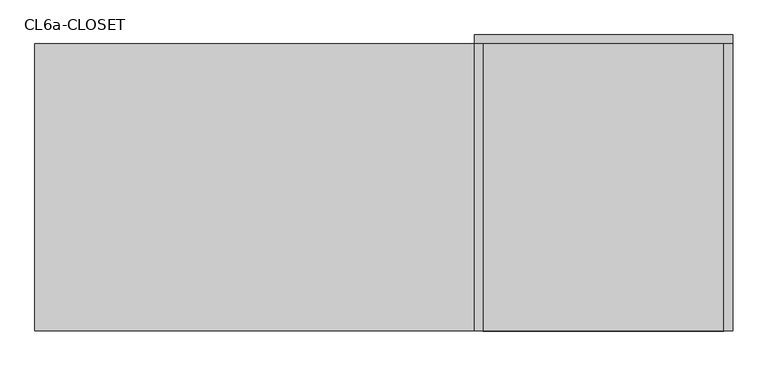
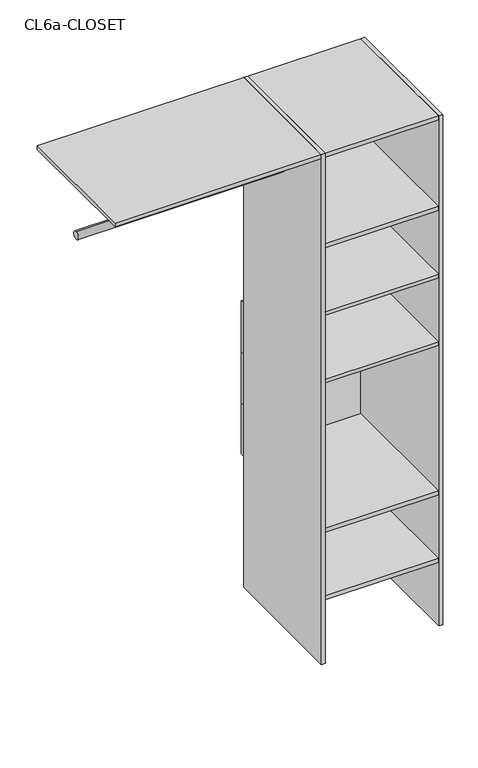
"""IFC4 building model written with IfcOpenShell, lengths in millimetres: furniture geometry, Closet 1estantes-1tubos_sin laterales : CL6a-CLOSET."""

from ifc_helpers import new_model, si_unit, point, frame, frame_2d, origin, origin_with_axes, place, context, project, spatial, polyline, circle_curve, trimmed, segment, composite_curve, outline, extrude, source, transform, mapped, element, save


def cl6a_closet_3e36db71(model_context):
    return source(origin(), model_context, "Body", "SweptSolid", [
        extrude(outline(polyline([(225.0, -100.0), (225.0, -600.0), (210.0, -600.0), (210.0, -100.0), (225.0, -100.0)])), origin_with_axes(), (0.0, 0.0, 1.0), 2000.0),
        extrude(outline(polyline([(-210.0, -100.0), (-210.0, -600.0), (-225.0, -600.0), (-225.0, -100.0), (-210.0, -100.0)])), origin_with_axes(), (0.0, 0.0, 1.0), 2000.0),
        extrude(outline(polyline([(225.0, -100.0), (-225.0, -100.0), (-225.0, -85.0), (225.0, -85.0), (225.0, -100.0)])), frame((0.0, 0.0, 915.0), z_axis=(0.0, 0.0, 1.0), x_axis=(1.0, 0.0, 0.0)), (0.0, 0.0, 1.0), 200.0),
        extrude(outline(polyline([(225.0, -100.0), (-225.0, -100.0), (-225.0, -85.0), (225.0, -85.0), (225.0, -100.0)])), frame((0.0, 0.0, 715.0), z_axis=(0.0, 0.0, 1.0), x_axis=(1.0, 0.0, 0.0)), (0.0, 0.0, 1.0), 200.0),
        extrude(outline(polyline([(225.0, -100.0), (-225.0, -100.0), (-225.0, -85.0), (225.0, -85.0), (225.0, -100.0)])), frame((0.0, 0.0, 515.0), z_axis=(0.0, 0.0, 1.0), x_axis=(1.0, 0.0, 0.0)), (0.0, 0.0, 1.0), 200.0),
        extrude(outline(polyline([(210.0, -100.0), (210.0, -600.0), (-210.0, -600.0), (-210.0, -100.0), (210.0, -100.0)])), frame((0.0, 0.0, 1100.0), z_axis=(0.0, 0.0, 1.0), x_axis=(1.0, 0.0, 0.0)), (0.0, 0.0, 1.0), 15.0),
        extrude(outline(composite_curve([segment(trimmed(circle_curve(frame_2d((-350.0, 1800.0)), 15.0), [point((-350.0, 1815.0))], [point((-350.0, 1785.0))], False, "CARTESIAN"), True, "CONTINUOUS"), segment(trimmed(circle_curve(frame_2d((-350.0, 1800.0)), 15.0), [point((-350.0, 1785.0))], [point((-350.0, 1815.0))], False, "CARTESIAN"), True, "CONTINUOUS")], self_intersect=False)), frame((-990.0, 0.0, 0.0), z_axis=(1.0, 0.0, 0.0), x_axis=(0.0, 1.0, 0.0)), (0.0, 0.0, 1.0), 765.0),
        extrude(outline(composite_curve([segment(trimmed(circle_curve(frame_2d((-350.0, 1800.0)), 15.0), [point((-350.0, 1815.0))], [point((-350.0, 1785.0))], False, "CARTESIAN"), True, "CONTINUOUS"), segment(trimmed(circle_curve(frame_2d((-350.0, 1800.0)), 15.0), [point((-350.0, 1785.0))], [point((-350.0, 1815.0))], False, "CARTESIAN"), True, "CONTINUOUS")], self_intersect=False)), frame((-990.0, 0.0, 0.0), z_axis=(1.0, 0.0, 0.0), x_axis=(0.0, 1.0, 0.0)), (0.0, 0.0, 1.0), 765.0),
        extrude(outline(polyline([(210.0, -100.0), (210.0, -600.0), (-210.0, -600.0), (-210.0, -100.0), (210.0, -100.0)])), frame((0.0, 0.0, 250.0), z_axis=(0.0, 0.0, 1.0), x_axis=(1.0, 0.0, 0.0)), (0.0, 0.0, 1.0), 15.0),
        extrude(outline(polyline([(210.0, -100.0), (210.0, -600.0), (-210.0, -600.0), (-210.0, -100.0), (210.0, -100.0)])), frame((0.0, 0.0, 515.0), z_axis=(0.0, 0.0, 1.0), x_axis=(1.0, 0.0, 0.0)), (0.0, 0.0, 1.0), 15.0),
        extrude(outline(polyline([(210.0, -100.0), (210.0, -600.0), (-210.0, -600.0), (-210.0, -100.0), (210.0, -100.0)])), frame((0.0, 0.0, 1365.0), z_axis=(0.0, 0.0, 1.0), x_axis=(1.0, 0.0, 0.0)), (0.0, 0.0, 1.0), 15.0),
        extrude(outline(polyline([(210.0, -100.0), (210.0, -600.0), (-210.0, -600.0), (-210.0, -100.0), (210.0, -100.0)])), frame((0.0, 0.0, 1630.0), z_axis=(0.0, 0.0, 1.0), x_axis=(1.0, 0.0, 0.0)), (0.0, 0.0, 1.0), 15.0),
        extrude(outline(polyline([(-210.0, -100.0), (-210.0, -600.0), (-990.0, -600.0), (-990.0, -100.0), (-210.0, -100.0)])), frame((0.0, 0.0, 1985.0), z_axis=(0.0, 0.0, 1.0), x_axis=(1.0, 0.0, 0.0)), (0.0, 0.0, 1.0), 15.0),
        extrude(outline(polyline([(210.0, -100.0), (210.0, -600.0), (-210.0, -600.0), (-210.0, -100.0), (210.0, -100.0)])), frame((0.0, 0.0, 1985.0), z_axis=(0.0, 0.0, 1.0), x_axis=(1.0, 0.0, 0.0)), (0.0, 0.0, 1.0), 15.0),
    ])


if __name__ == "__main__":
    model = new_model("IFC4")
    model_context = context("Model", 3, world=origin())
    ifc_project = project(units=[si_unit("LENGTHUNIT", "METRE", prefix="MILLI")], contexts=[model_context])
    site = spatial("IfcSite", under=ifc_project)
    building = spatial("IfcBuilding", under=site)
    placement = place(None, origin())
    cl6a_closet_shape = cl6a_closet_3e36db71(model_context)
    element("IfcFurniture", 1, ObjectType="Closet 1estantes-1tubos_sin laterales : CL6a-CLOSET", at=placement, inside=building, context=model_context, shape_type="MappedRepresentation", body=[
        mapped(cl6a_closet_shape, transform((0.0, 0.0, 0.0), x_axis=(1.0, 0.0, 0.0), y_axis=(0.0, 1.0, 0.0), z_axis=(0.0, 0.0, 1.0))),
    ])
    save(model, "model.ifc")
